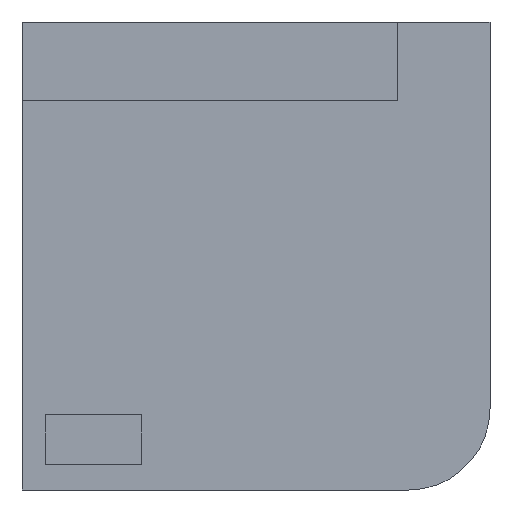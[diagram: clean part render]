
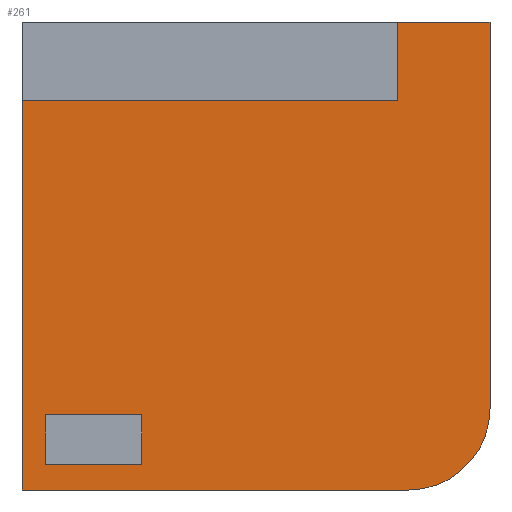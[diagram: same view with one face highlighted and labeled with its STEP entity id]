
A CAD part, front view. The second image highlights one B-rep face of the part: STEP entity #261.
In plain terms, the highlighted planar face has unit normal (0, -1, 0).
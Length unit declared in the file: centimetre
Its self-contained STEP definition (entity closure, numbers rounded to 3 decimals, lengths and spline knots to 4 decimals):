
#3 = DIRECTION ( 'NONE',  ( 0., 0., 1. ) ) ;
#17 = ORIENTED_EDGE ( 'NONE', *, *, #833, .T. ) ;
#41 = LINE ( 'NONE', #117, #72 ) ;
#49 = FACE_OUTER_BOUND ( 'NONE', #765, .T. ) ;
#54 = CARTESIAN_POINT ( 'NONE',  ( 1000., 0., 1000. ) ) ;
#57 = DIRECTION ( 'NONE',  ( 1., 0., 0. ) ) ;
#70 = VERTEX_POINT ( 'NONE', #780 ) ;
#72 = VECTOR ( 'NONE', #818, 100. ) ;
#80 = EDGE_CURVE ( 'NONE', #344, #258, #542, .T. ) ;
#98 = EDGE_CURVE ( 'NONE', #496, #335, #863, .T. ) ;
#102 = ORIENTED_EDGE ( 'NONE', *, *, #703, .F. ) ;
#117 = CARTESIAN_POINT ( 'NONE',  ( 0., 0., 1000. ) ) ;
#120 = AXIS2_PLACEMENT_3D ( 'NONE', #271, #418, #756 ) ;
#143 = DIRECTION ( 'NONE',  ( 0., 0., -1. ) ) ;
#150 = EDGE_CURVE ( 'NONE', #600, #167, #866, .T. ) ;
#151 = DIRECTION ( 'NONE',  ( 0., 0., 1. ) ) ;
#155 = LINE ( 'NONE', #206, #363 ) ;
#158 = CARTESIAN_POINT ( 'NONE',  ( 0., 0., 0. ) ) ;
#162 = VECTOR ( 'NONE', #143, 100. ) ;
#167 = VERTEX_POINT ( 'NONE', #630 ) ;
#194 = DIRECTION ( 'NONE',  ( 1., 0., 0. ) ) ;
#206 = CARTESIAN_POINT ( 'NONE',  ( 50.2392, 0., 54.1822 ) ) ;
#211 = EDGE_CURVE ( 'NONE', #258, #616, #41, .T. ) ;
#216 = VERTEX_POINT ( 'NONE', #914 ) ;
#234 = CARTESIAN_POINT ( 'NONE',  ( 802.8397, 0., 831.6471 ) ) ;
#236 = DIRECTION ( 'NONE',  ( 0., 0., -1. ) ) ;
#258 = VERTEX_POINT ( 'NONE', #986 ) ;
#261 = ADVANCED_FACE ( 'NONE', ( #437, #49 ), #430, .F. ) ;
#263 = CARTESIAN_POINT ( 'NONE',  ( 1000., 0., 174.227 ) ) ;
#266 = VECTOR ( 'NONE', #3, 100. ) ;
#271 = CARTESIAN_POINT ( 'NONE',  ( 0., 0., 1000. ) ) ;
#299 = VECTOR ( 'NONE', #194, 100. ) ;
#307 = CARTESIAN_POINT ( 'NONE',  ( 0., 0., 1000. ) ) ;
#317 = CARTESIAN_POINT ( 'NONE',  ( 0., 0., 0. ) ) ;
#335 = VERTEX_POINT ( 'NONE', #158 ) ;
#344 = VERTEX_POINT ( 'NONE', #234 ) ;
#358 = DIRECTION ( 'NONE',  ( 0., 0., 1. ) ) ;
#363 = VECTOR ( 'NONE', #554, 100. ) ;
#403 = LINE ( 'NONE', #725, #729 ) ;
#418 = DIRECTION ( 'NONE',  ( 0., 1., 0. ) ) ;
#427 = DIRECTION ( 'NONE',  ( -1., 0., 0. ) ) ;
#430 = PLANE ( 'NONE',  #120 ) ;
#435 = EDGE_CURVE ( 'NONE', #335, #70, #553, .T. ) ;
#437 = FACE_BOUND ( 'NONE', #888, .T. ) ;
#451 = CIRCLE ( 'NONE', #688, 174.227 ) ;
#471 = EDGE_CURVE ( 'NONE', #70, #524, #451, .T. ) ;
#496 = VERTEX_POINT ( 'NONE', #823 ) ;
#497 = VECTOR ( 'NONE', #57, 100. ) ;
#524 = VERTEX_POINT ( 'NONE', #263 ) ;
#536 = EDGE_CURVE ( 'NONE', #216, #600, #921, .T. ) ;
#542 = LINE ( 'NONE', #793, #266 ) ;
#553 = LINE ( 'NONE', #317, #299 ) ;
#554 = DIRECTION ( 'NONE',  ( 0., 0., -1. ) ) ;
#574 = EDGE_CURVE ( 'NONE', #616, #524, #763, .T. ) ;
#585 = ORIENTED_EDGE ( 'NONE', *, *, #80, .F. ) ;
#600 = VERTEX_POINT ( 'NONE', #851 ) ;
#616 = VERTEX_POINT ( 'NONE', #945 ) ;
#630 = CARTESIAN_POINT ( 'NONE',  ( 255.9446, 0., 160.9941 ) ) ;
#656 = ORIENTED_EDGE ( 'NONE', *, *, #990, .F. ) ;
#680 = LINE ( 'NONE', #994, #699 ) ;
#685 = VERTEX_POINT ( 'NONE', #730 ) ;
#688 = AXIS2_PLACEMENT_3D ( 'NONE', #748, #991, #358 ) ;
#699 = VECTOR ( 'NONE', #427, 100. ) ;
#703 = EDGE_CURVE ( 'NONE', #167, #685, #403, .T. ) ;
#704 = ORIENTED_EDGE ( 'NONE', *, *, #471, .T. ) ;
#716 = CARTESIAN_POINT ( 'NONE',  ( 255.9446, 0., 54.1822 ) ) ;
#725 = CARTESIAN_POINT ( 'NONE',  ( 50.2392, 0., 160.9941 ) ) ;
#729 = VECTOR ( 'NONE', #953, 100. ) ;
#730 = CARTESIAN_POINT ( 'NONE',  ( 50.2392, 0., 160.9941 ) ) ;
#748 = CARTESIAN_POINT ( 'NONE',  ( 825.773, 0., 174.227 ) ) ;
#756 = DIRECTION ( 'NONE',  ( 0., 0., 1. ) ) ;
#763 = LINE ( 'NONE', #54, #162 ) ;
#765 = EDGE_LOOP ( 'NONE', ( #585, #17, #933, #975, #704, #973, #931 ) ) ;
#766 = CARTESIAN_POINT ( 'NONE',  ( 50.2392, 0., 54.1822 ) ) ;
#780 = CARTESIAN_POINT ( 'NONE',  ( 825.773, 0., 0. ) ) ;
#793 = CARTESIAN_POINT ( 'NONE',  ( 802.8397, 0., 831.6471 ) ) ;
#818 = DIRECTION ( 'NONE',  ( 1., 0., 0. ) ) ;
#823 = CARTESIAN_POINT ( 'NONE',  ( 0., 0., 831.6471 ) ) ;
#833 = EDGE_CURVE ( 'NONE', #344, #496, #680, .T. ) ;
#846 = VECTOR ( 'NONE', #151, 100. ) ;
#851 = CARTESIAN_POINT ( 'NONE',  ( 255.9446, 0., 54.1822 ) ) ;
#863 = LINE ( 'NONE', #307, #878 ) ;
#866 = LINE ( 'NONE', #716, #846 ) ;
#878 = VECTOR ( 'NONE', #236, 100. ) ;
#888 = EDGE_LOOP ( 'NONE', ( #988, #656, #102, #901 ) ) ;
#901 = ORIENTED_EDGE ( 'NONE', *, *, #150, .F. ) ;
#914 = CARTESIAN_POINT ( 'NONE',  ( 50.2392, 0., 54.1822 ) ) ;
#921 = LINE ( 'NONE', #766, #497 ) ;
#931 = ORIENTED_EDGE ( 'NONE', *, *, #211, .F. ) ;
#933 = ORIENTED_EDGE ( 'NONE', *, *, #98, .T. ) ;
#945 = CARTESIAN_POINT ( 'NONE',  ( 1000., 0., 1000. ) ) ;
#953 = DIRECTION ( 'NONE',  ( -1., 0., 0. ) ) ;
#973 = ORIENTED_EDGE ( 'NONE', *, *, #574, .F. ) ;
#975 = ORIENTED_EDGE ( 'NONE', *, *, #435, .T. ) ;
#986 = CARTESIAN_POINT ( 'NONE',  ( 802.8397, 0., 1000. ) ) ;
#988 = ORIENTED_EDGE ( 'NONE', *, *, #536, .F. ) ;
#990 = EDGE_CURVE ( 'NONE', #685, #216, #155, .T. ) ;
#991 = DIRECTION ( 'NONE',  ( 0., -1., 0. ) ) ;
#994 = CARTESIAN_POINT ( 'NONE',  ( 802.8397, 0., 831.6471 ) ) ;
